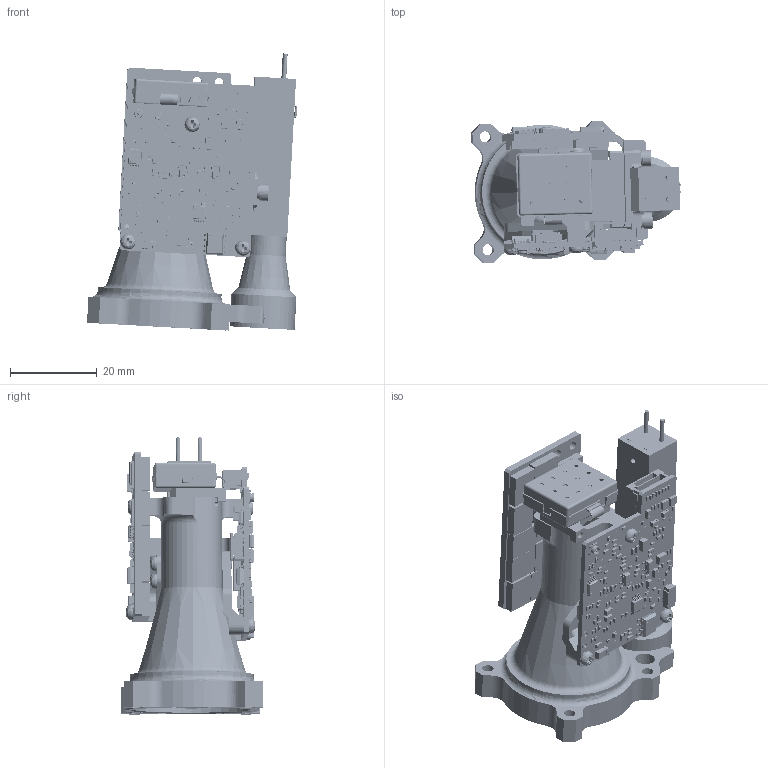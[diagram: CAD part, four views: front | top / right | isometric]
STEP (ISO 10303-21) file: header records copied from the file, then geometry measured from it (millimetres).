
FILE_DESCRIPTION((''),'2;1');
FILE_NAME('LRF0625S-DADC0001_ASM_ASM','2022-10-26T15:52:19',('hebin'),(''),'CREO PARAMETRIC BY PTC INC, 2019224','CREO PARAMETRIC BY PTC INC, 2019224','');
FILE_SCHEMA(('CONFIG_CONTROL_DESIGN'));
Products named in the file (240): LRF06902001-V100_24; 25MM00_1; LRF01702049-25MM0001_4; LRF01702114-000_ASM_15_ASM; LAS00102026-30_V3000_19_2_1; LAS00102044-300001_6_2_1; PD_1_1_3_2_1; PD_1_2_3_2_1; PD_1_3_3_2_1; PD_1_ASM_3_ASM_2_ASM_1_ASM; 000_3_2_1; 00_3-9225_1_2_1; 00_3-9225_2_2_1; 00_3-9225_ASM_2_ASM_1_ASM; 00_3-9342_2_1; LAS00102020-30_V3000_27_2_1; 30X00_1_3_2_1; 30X00_1_ASM_2_ASM_1_ASM; LAS00102012-30X0001_3_2_1; 30X-0001_ASM_15_ASM_2_ASM_1_ASM; 200UJ-0001_ASM_14_ASM_2_ASM_1_ASM; 200UJ30X0001_ASM_2_ASM_1_ASM; 200UJ-30X0001_ASM_1_ASM; NONE-2150_1; NONE-24840_1; 04250001_ASM_1_ASM; D2000_1; M260001_1; LRF06902004-V1000_9; LRF06902003-V1000_14; M240001_1; LRF06703003-APD_V1_0_2_1; LRF06703003-APD_V1_0_2_2; LRF06703003-APD_V1_0_2_3; LRF06703003-APD_V1_0_2_4; LRF06703003-APD_V1_0_2_5; LRF06703003-APD_V1_0_2_6; LRF06703003-APD_V1_0_2_ASM; LRF06902002-V1000_5; LRF06702108-0001_1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
Assembly tree (521 placements, depth 9):
  LRF0625S-DADC0001_ASM_ASM
    LRF0625S-DADC0001_ASM_57_ASM
      LRF01702114-000_ASM_15_ASM
        LRF06902001-V100_24
        25MM00_1
        LRF01702049-25MM0001_4
      200UJ-30X0001_ASM_1_ASM
        200UJ30X0001_ASM_2_ASM_1_ASM
          200UJ-0001_ASM_14_ASM_2_ASM_1_ASM
            LAS00102026-30_V3000_19_2_1
            LAS00102044-300001_6_2_1
            PD_1_ASM_3_ASM_2_ASM_1_ASM  x2
              PD_1_1_3_2_1
              PD_1_2_3_2_1
              PD_1_3_3_2_1
            000_3_2_1
            00_3-9225_ASM_2_ASM_1_ASM
              00_3-9225_1_2_1
              00_3-9225_2_2_1
            00_3-9342_2_1  x2
            30X-0001_ASM_15_ASM_2_ASM_1_ASM
              LAS00102020-30_V3000_27_2_1
              30X00_1_ASM_2_ASM_1_ASM
                30X00_1_3_2_1
              LAS00102012-30X0001_3_2_1
      04250001_ASM_1_ASM
        NONE-2150_1
        NONE-24840_1
      D2000_1  x2
      M260001_1  x2
      LRF06902004-V1000_9
      LRF06902003-V1000_14
      M240001_1  x9
      LRF06703003-APD_V1_0_2_ASM
        LRF06703003-APD_V1_0_2_1
        LRF06703003-APD_V1_0_2_2
        LRF06703003-APD_V1_0_2_3
        LRF06703003-APD_V1_0_2_4
        LRF06703003-APD_V1_0_2_5
        LRF06703003-APD_V1_0_2_6
      LRF06902002-V1000_5
      LRF06702108-0001_1
      LRF06702109-0001_1
      PCB-LRF067-V1_ASM_2_ASM
        PCB-LRF067-V1_1_ASM_1_ASM
          BOARD_OUTLINE_1_2_2
          COMPONENTS_1_2_ASM_2_ASM
            QFN32-50-500X500X80-HS350X350_A_ASM
              9360D52E-9BD1-42F0-84E8-DD68B45
            CNL2X6-50-610X680X50_ASM_1_ASM  x2
              FBB05001-F12_REF_1
            CS-0603_1_2_ASM_2_ASM  x17
              USER_LIBRARY-CAPC1608X____1_2_A_ASM
                FILLET7_1_2_2
                FILLET4_1_2_2
                FILLET9_1_2_2
            RS-0402_1_2_ASM_2_ASM  x73
              USER_LIBRARY-RES_1005-0402_1_2__ASM
                BOSS-EXTRUDE1-14903_1
                EXTRUIR4_2_-14904_1
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Bounding box: 48.35 x 32.67 x 63.78 mm (x, y, z)
Volume: 21684.3 mm3; surface area: 34835.6 mm2
Topology: 736 solids, 892 shells, 29720 faces, 74551 edges, 45151 vertices
Faces by surface type: plane 16084, cylinder 6973, extrusion 3389, sphere 2015, bspline 917, torus 210, cone 128, revolution 4
Entity records: 394954 total; most frequent: CARTESIAN_POINT 124682, ORIENTED_EDGE 55326, DIRECTION 54436, EDGE_CURVE 27732, VECTOR 20114, LINE 19206, VERTEX_POINT 17585, AXIS2_PLACEMENT_3D 17159
